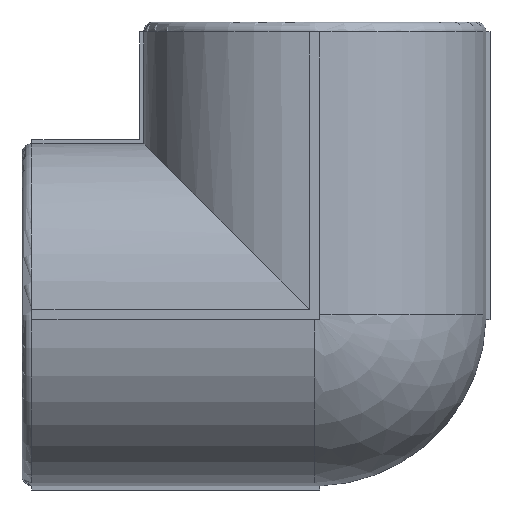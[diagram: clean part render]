
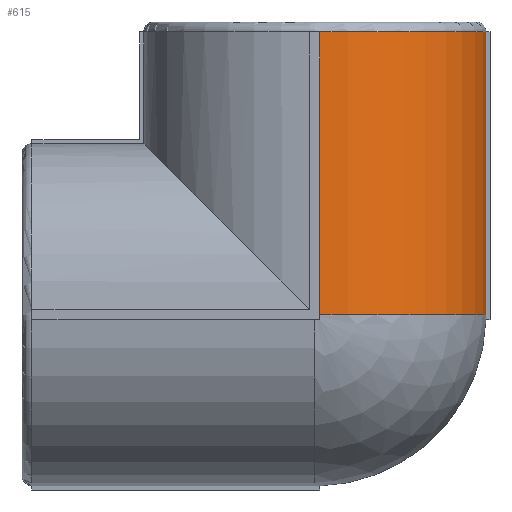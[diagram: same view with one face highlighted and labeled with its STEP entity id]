
A CAD part, left-side view. The second image highlights one B-rep face of the part: STEP entity #615.
In plain terms, the highlighted cylindrical face has radius 17.25 mm (diameter 34.5 mm), a partial arc.
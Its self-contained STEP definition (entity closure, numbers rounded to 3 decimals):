
#615=ADVANCED_FACE('',(#4800),#4802,.T.);
#4800=FACE_BOUND('',#4801,.T.);
#4801=EDGE_LOOP('',(#12171,#12172,#12173,#12174));
#4802=CYLINDRICAL_SURFACE('',#4803,17.25);
#4803=AXIS2_PLACEMENT_3D('',#4804,#4805,#4806);
#4804=CARTESIAN_POINT('',(0.,0.,0.));
#4805=DIRECTION('',(0.,0.,1.));
#4806=DIRECTION('',(-1.,0.,0.));
#12171=ORIENTED_EDGE('',*,*,#17409,.F.);
#12172=ORIENTED_EDGE('',*,*,#17367,.F.);
#12173=ORIENTED_EDGE('',*,*,#17408,.F.);
#12174=ORIENTED_EDGE('',*,*,#17403,.F.);
#17367=EDGE_CURVE('',#21362,#21364,#21365,.T.);
#17403=EDGE_CURVE('',#21423,#21425,#21426,.T.);
#17408=EDGE_CURVE('',#21425,#21362,#21433,.F.);
#17409=EDGE_CURVE('',#21364,#21423,#21434,.T.);
#21362=VERTEX_POINT('',#29488);
#21364=VERTEX_POINT('',#29493);
#21365=CIRCLE('',#29494,17.25);
#21423=VERTEX_POINT('',#29634);
#21425=VERTEX_POINT('',#29639);
#21426=CIRCLE('',#29640,17.25);
#21433=LINE('',#29727,#29728);
#21434=LINE('',#29730,#29731);
#29488=CARTESIAN_POINT('',(-0.5,-17.243,0.));
#29493=CARTESIAN_POINT('',(-17.243,-0.5,0.));
#29494=AXIS2_PLACEMENT_3D('',#29495,#29496,#29497);
#29495=CARTESIAN_POINT('',(0.,0.,0.));
#29496=DIRECTION('',(0.,0.,-1.));
#29497=DIRECTION('',(-0.029,-1.,0.));
#29634=CARTESIAN_POINT('',(-17.243,-0.5,28.5));
#29639=CARTESIAN_POINT('',(-0.5,-17.243,28.5));
#29640=AXIS2_PLACEMENT_3D('',#29641,#29642,#29643);
#29641=CARTESIAN_POINT('',(0.,0.,28.5));
#29642=DIRECTION('',(0.,0.,1.));
#29643=DIRECTION('',(-1.,-0.029,0.));
#29727=CARTESIAN_POINT('',(-0.5,-17.243,0.));
#29728=VECTOR('',#29729,1.);
#29729=DIRECTION('',(0.,0.,1.));
#29730=CARTESIAN_POINT('',(-17.243,-0.5,0.));
#29731=VECTOR('',#29732,1.);
#29732=DIRECTION('',(0.,0.,1.));
